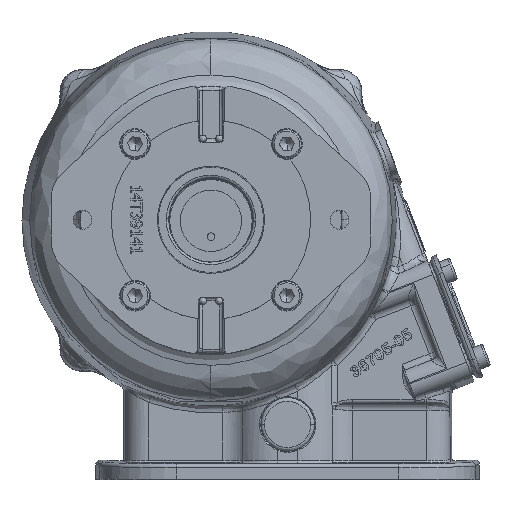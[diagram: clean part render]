
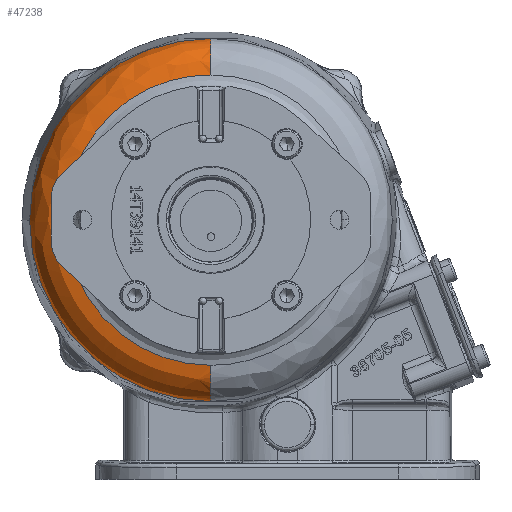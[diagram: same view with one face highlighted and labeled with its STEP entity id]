
A CAD part, top view. The second image highlights one B-rep face of the part: STEP entity #47238.
In plain terms, the highlighted free-form (B-spline) face has degree [3, 3] with [4, 7] control points.
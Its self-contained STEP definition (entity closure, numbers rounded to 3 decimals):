
#39 = CARTESIAN_POINT ( 'NONE',  ( -81.15, 48.842, 105.133 ) ) ;
#2698 = CARTESIAN_POINT ( 'NONE',  ( -31.75, 159.662, 89.958 ) ) ;
#4311 = CIRCLE ( 'NONE', #71097, 75.091 ) ;
#6740 = EDGE_CURVE ( 'NONE', #67535, #14466, #95256, .T. ) ;
#8109 = CARTESIAN_POINT ( 'NONE',  ( -91.951, 84.572, 105.133 ) ) ;
#8142 = ORIENTED_EDGE ( 'NONE', *, *, #38164, .F. ) ;
#9077 = CARTESIAN_POINT ( 'NONE',  ( -106.532, 83.867, 98.705 ) ) ;
#9916 = CARTESIAN_POINT ( 'NONE',  ( -31.75, 159.662, 89.958 ) ) ;
#14466 = VERTEX_POINT ( 'NONE', #57820 ) ;
#17655 = CIRCLE ( 'NONE', #39542, 15.748 ) ;
#19489 = CARTESIAN_POINT ( 'NONE',  ( -91.951, 106.212, 105.133 ) ) ;
#21883 = DIRECTION ( 'NONE',  ( 0., -1., 0. ) ) ;
#22134 = VERTEX_POINT ( 'NONE', #109727 ) ;
#23020 = CARTESIAN_POINT ( 'NONE',  ( -70.926, 15.238, 104.881 ) ) ;
#23854 = CARTESIAN_POINT ( 'NONE',  ( -31.75, 153.155, 104.881 ) ) ;
#26201 = EDGE_CURVE ( 'NONE', #34313, #67535, #99682, .T. ) ;
#30068 = EDGE_CURVE ( 'NONE', #22134, #53203, #130647, .T. ) ;
#30411 = ORIENTED_EDGE ( 'NONE', *, *, #82414, .T. ) ;
#32550 = CARTESIAN_POINT ( 'NONE',  ( -41.511, 144.62, 105.133 ) ) ;
#34313 = VERTEX_POINT ( 'NONE', #163272 ) ;
#35201 = CARTESIAN_POINT ( 'NONE',  ( -31.75, 144.406, 105.149 ) ) ;
#36062 = CARTESIAN_POINT ( 'NONE',  ( -106.116, 39.733, 98.705 ) ) ;
#36933 = CARTESIAN_POINT ( 'NONE',  ( -65.929, 24.082, 105.149 ) ) ;
#38164 = EDGE_CURVE ( 'NONE', #14466, #114839, #66997, .T. ) ;
#38642 = CARTESIAN_POINT ( 'NONE',  ( -75.886, 159.357, 98.705 ) ) ;
#39542 = AXIS2_PLACEMENT_3D ( 'NONE', #77329, #50365, #87820 ) ;
#47238 = ADVANCED_FACE ( 'NONE', ( #156400 ), #163975, .F. ) ;
#48314 = CARTESIAN_POINT ( 'NONE',  ( -99.948, 43.451, 104.881 ) ) ;
#50365 = DIRECTION ( 'NONE',  ( 1., 0., 0. ) ) ;
#50620 = CARTESIAN_POINT ( 'NONE',  ( -31.75, 25.22, 89.408 ) ) ;
#50876 = CARTESIAN_POINT ( 'NONE',  ( -30.457, 16.001, 104.881 ) ) ;
#51318 = CARTESIAN_POINT ( 'NONE',  ( -31.75, 144.602, 105.137 ) ) ;
#53203 = VERTEX_POINT ( 'NONE', #2698 ) ;
#53247 = CARTESIAN_POINT ( 'NONE',  ( -91.951, 78.552, 105.133 ) ) ;
#53610 = ORIENTED_EDGE ( 'NONE', *, *, #30068, .T. ) ;
#57820 = CARTESIAN_POINT ( 'NONE',  ( -91.951, 84.572, 105.133 ) ) ;
#60842 = CARTESIAN_POINT ( 'NONE',  ( -31.75, 24.392, 105.134 ) ) ;
#62219 = CARTESIAN_POINT ( 'NONE',  ( -91.915, 119.319, 105.149 ) ) ;
#62839 = CARTESIAN_POINT ( 'NONE',  ( -31.75, 84.572, 89.958 ) ) ;
#63056 = CARTESIAN_POINT ( 'NONE',  ( -74.469, 8.968, 98.705 ) ) ;
#66997 = B_SPLINE_CURVE_WITH_KNOTS ( 'NONE', 3,
 ( #8109, #19489, #84840, #151997, #32550, #170032 ),
 .UNSPECIFIED., .F., .F.,
 ( 4, 2, 4 ),
 ( 0., 0.173, 0.25 ),
 .UNSPECIFIED. ) ;
#67535 = VERTEX_POINT ( 'NONE', #60842 ) ;
#68857 = CARTESIAN_POINT ( 'NONE',  ( -91.027, 72.443, 105.133 ) ) ;
#71097 = AXIS2_PLACEMENT_3D ( 'NONE', #62839, #132584, #143098 ) ;
#77329 = CARTESIAN_POINT ( 'NONE',  ( -31.75, 143.924, 89.408 ) ) ;
#77616 = CARTESIAN_POINT ( 'NONE',  ( -31.75, 24.392, 105.134 ) ) ;
#77830 = CARTESIAN_POINT ( 'NONE',  ( -74.643, 8.659, 89.958 ) ) ;
#82414 = EDGE_CURVE ( 'NONE', #53203, #114839, #17655, .T. ) ;
#84840 = CARTESIAN_POINT ( 'NONE',  ( -79.226, 127.545, 105.133 ) ) ;
#87820 = DIRECTION ( 'NONE',  ( 0., 1., 0. ) ) ;
#88068 = DIRECTION ( 'NONE',  ( -1., 0., 0. ) ) ;
#88342 = CARTESIAN_POINT ( 'NONE',  ( -91.249, 48.697, 105.149 ) ) ;
#89205 = CARTESIAN_POINT ( 'NONE',  ( -106.948, 128.001, 98.705 ) ) ;
#90063 = CARTESIAN_POINT ( 'NONE',  ( -100.711, 124.4, 104.881 ) ) ;
#95256 = B_SPLINE_CURVE_WITH_KNOTS ( 'NONE', 3,
 ( #77616, #117764, #170973, #119490, #144805, #39, #106393, #68857, #53247, #108116 ),
 .UNSPECIFIED., .F., .F.,
 ( 4, 2, 2, 2, 4 ),
 ( 0.75, 0.781, 0.875, 0.952, 1. ),
 .UNSPECIFIED. ) ;
#99682 = CIRCLE ( 'NONE', #152610, 15.748 ) ;
#99951 = CARTESIAN_POINT ( 'NONE',  ( -31.75, 84.572, 89.958 ) ) ;
#101450 = CARTESIAN_POINT ( 'NONE',  ( -106.42, 39.55, 89.958 ) ) ;
#102309 = CARTESIAN_POINT ( 'NONE',  ( -30.335, 9.495, 89.958 ) ) ;
#102409 = ORIENTED_EDGE ( 'NONE', *, *, #143290, .T. ) ;
#104000 = CARTESIAN_POINT ( 'NONE',  ( -100.33, 83.925, 104.881 ) ) ;
#104946 = ORIENTED_EDGE ( 'NONE', *, *, #26201, .F. ) ;
#106393 = CARTESIAN_POINT ( 'NONE',  ( -86.339, 57.402, 105.133 ) ) ;
#108116 = CARTESIAN_POINT ( 'NONE',  ( -91.951, 84.572, 105.133 ) ) ;
#109727 = CARTESIAN_POINT ( 'NONE',  ( -106.841, 84.572, 89.958 ) ) ;
#110482 = DIRECTION ( 'NONE',  ( 0., -1., 0. ) ) ;
#114546 = CARTESIAN_POINT ( 'NONE',  ( -107.255, 128.179, 89.958 ) ) ;
#114839 = VERTEX_POINT ( 'NONE', #51318 ) ;
#117764 = CARTESIAN_POINT ( 'NONE',  ( -35.674, 24.383, 105.133 ) ) ;
#117973 = CARTESIAN_POINT ( 'NONE',  ( -106.837, 83.864, 89.958 ) ) ;
#119490 = CARTESIAN_POINT ( 'NONE',  ( -55.117, 27.834, 105.133 ) ) ;
#122417 = ORIENTED_EDGE ( 'NONE', *, *, #6740, .F. ) ;
#128504 = CARTESIAN_POINT ( 'NONE',  ( -31.75, 159.357, 98.705 ) ) ;
#130198 = CARTESIAN_POINT ( 'NONE',  ( -30.622, 24.748, 105.149 ) ) ;
#130647 = CIRCLE ( 'NONE', #133528, 75.091 ) ;
#131767 = EDGE_LOOP ( 'NONE', ( #53610, #30411, #8142, #122417, #104946, #102409 ) ) ;
#132584 = DIRECTION ( 'NONE',  ( 0., 0., -1. ) ) ;
#133528 = AXIS2_PLACEMENT_3D ( 'NONE', #99951, #151477, #110482 ) ;
#142464 = CARTESIAN_POINT ( 'NONE',  ( -76.066, 159.662, 89.958 ) ) ;
#143098 = DIRECTION ( 'NONE',  ( 0., -1., 0. ) ) ;
#143290 = EDGE_CURVE ( 'NONE', #34313, #22134, #4311, .T. ) ;
#144805 = CARTESIAN_POINT ( 'NONE',  ( -66.021, 33.698, 105.133 ) ) ;
#145029 = CARTESIAN_POINT ( 'NONE',  ( -67.063, 144.406, 105.149 ) ) ;
#151477 = DIRECTION ( 'NONE',  ( 0., 0., -1. ) ) ;
#151997 = CARTESIAN_POINT ( 'NONE',  ( -51.272, 142.357, 105.133 ) ) ;
#152610 = AXIS2_PLACEMENT_3D ( 'NONE', #50620, #88068, #21883 ) ;
#156400 = FACE_OUTER_BOUND ( 'NONE', #131767, .T. ) ;
#157234 = CARTESIAN_POINT ( 'NONE',  ( -72.226, 153.155, 104.881 ) ) ;
#163272 = CARTESIAN_POINT ( 'NONE',  ( -31.75, 9.481, 89.958 ) ) ;
#163975 =( BOUNDED_SURFACE ( )  B_SPLINE_SURFACE ( 3, 3, ( 
 ( #102309, #77830, #101450, #117973, #114546, #142464, #9916 ),
 ( #170348, #63056, #36062, #9077, #89205, #38642, #128504 ),
 ( #50876, #23020, #48314, #104000, #90063, #157234, #23854 ),
 ( #130198, #36933, #88342, #167779, #62219, #145029, #35201 ) ),
 .UNSPECIFIED., .F., .F., .F. ) 
 B_SPLINE_SURFACE_WITH_KNOTS ( ( 4, 4 ),
 ( 4, 3, 4 ),
 ( 0., 1. ),
 ( 0., 0.5, 1. ),
 .UNSPECIFIED. ) 
 GEOMETRIC_REPRESENTATION_ITEM ( )  RATIONAL_B_SPLINE_SURFACE ( (
 ( 1., 0.803, 0.803, 1., 0.803, 0.803, 1.),
 ( 0.82, 0.658, 0.658, 0.82, 0.658, 0.658, 0.82),
 ( 0.82, 0.658, 0.658, 0.82, 0.658, 0.658, 0.82),
 ( 1., 0.803, 0.803, 1., 0.803, 0.803, 1.) ) ) 
 REPRESENTATION_ITEM ( '' )  SURFACE ( )  );
#167779 = CARTESIAN_POINT ( 'NONE',  ( -91.582, 84.008, 105.149 ) ) ;
#170032 = CARTESIAN_POINT ( 'NONE',  ( -31.75, 144.602, 105.137 ) ) ;
#170348 = CARTESIAN_POINT ( 'NONE',  ( -30.34, 9.8, 98.705 ) ) ;
#170973 = CARTESIAN_POINT ( 'NONE',  ( -39.603, 24.756, 105.133 ) ) ;
